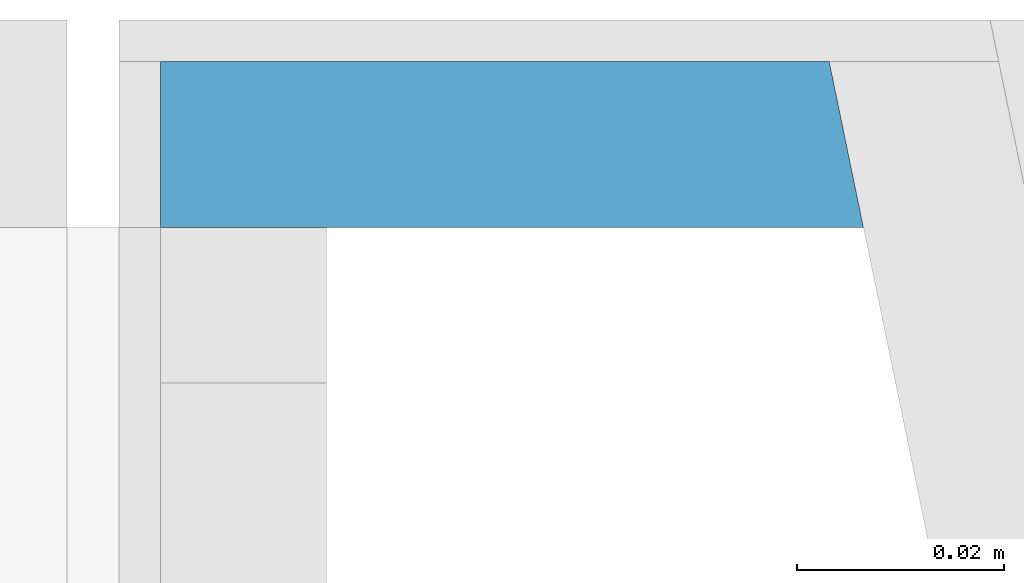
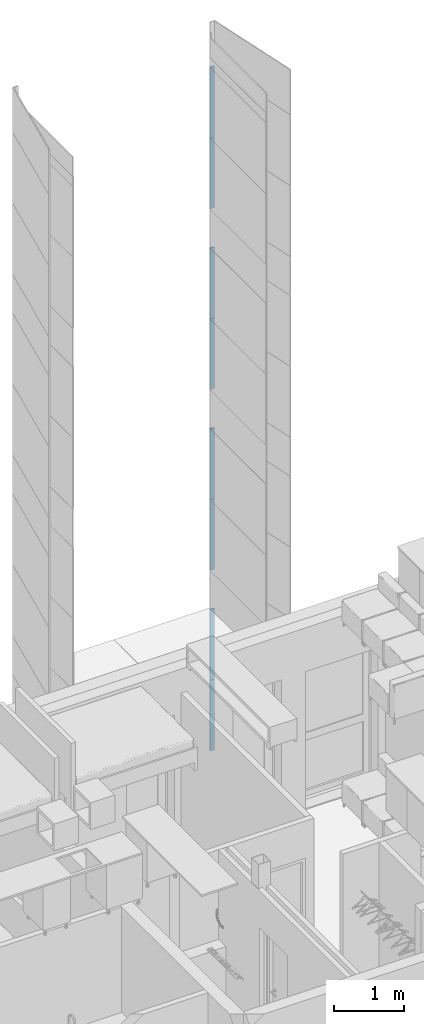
# One storey, part 24 of 125: 8 building element parts, 1 element without a shape of its own.
"""IFC2X3 building model written with IfcOpenShell, lengths in millimetres."""

from ifc_helpers import new_model, entity, si_unit, converted_unit, direction, frame, origin, place, context, subcontext, project, spatial, polyline, outline, extrude, material, type_object, element, aggregate, save


model = new_model("IFC2X3")

# Units and contexts
model_context = context("Model", 3, precision=0.01, world=origin(), true_north=direction((6.123233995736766e-17, 1.0)))
plan_context = context("Plan", 3, precision=0.01, world=origin(), true_north=direction((6.123233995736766e-17, 1.0)))
body_context = subcontext(model_context, "Body", "Model", "MODEL_VIEW")
ifc_project = project(units=[si_unit("LENGTHUNIT", "METRE", prefix="MILLI"), converted_unit("PLANEANGLEUNIT", "DEGREE", entity("IfcPlaneAngleMeasure", 0.017453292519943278), si_unit("PLANEANGLEUNIT", "RADIAN"), dimensions=[0, 0, 0, 0, 0, 0, 0]), si_unit("AREAUNIT", "SQUARE_METRE")], contexts=[model_context, plan_context])

# Site, building, storey
site_placement = place(None, origin())
site = spatial("IfcSite", under=ifc_project, at=site_placement, Name="Default", CompositionType="ELEMENT")
building_placement = place(site_placement, origin())
building = spatial("IfcBuilding", under=site, at=building_placement, CompositionType="ELEMENT")
storey_placement = place(building_placement, frame((0.0, 0.0, 3125.0)))
storey = spatial("IfcBuildingStorey", under=building, at=storey_placement, Name="2K", CompositionType="ELEMENT", Elevation=3125.0)

# Wall, building element parts
wall_type = type_object("IfcWallType", Name="Basic Wall:VS-komposiit", PredefinedType="STANDARD")
wall_placement = place(storey_placement, frame((8286.775755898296, 17442.0, -1010.0), z_axis=(0.0, 0.0, 1.0), x_axis=(-1.0, 0.0, 0.0)))
wall = element("IfcWall", 1, at=wall_placement, inside=storey, type_object=wall_type, Name="Basic Wall:VS-komposiit", ObjectType="Basic Wall:VS-komposiit")
ifc_material = material(Name="_K. Õhk. Roov. Fassaadikatte alusroov. Horisontaalne. 25 mm")
building_element_part_1_placement = place(wall_placement, origin())
building_element_part_1 = element("IfcBuildingElementPart", 2, at=building_element_part_1_placement, material=ifc_material, Name="Part", context=body_context, shape_type="SweptSolid", body=[
    extrude(outline(polyline([(-8.0, -33.06294461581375), (8.0, -33.06294461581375), (8.0, 34.712811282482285), (-8.0, 31.41307794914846), (-8.0, -33.06294461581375)])), frame((34.712811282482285, 2.0, 927.4999999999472), z_axis=(0.0, 0.0, 1.0), x_axis=(0.0, 1.0, 0.0)), (0.0, 0.0, 1.0), 1240.0000000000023),
])
building_element_part_2_placement = place(wall_placement, origin())
building_element_part_2 = element("IfcBuildingElementPart", 3, at=building_element_part_2_placement, material=ifc_material, Name="Part", context=body_context, shape_type="SweptSolid", body=[
    extrude(outline(polyline([(-8.0, -33.06294461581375), (8.0, -33.06294461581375), (8.0, 34.712811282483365), (-8.0, 31.41307794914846), (-8.0, -33.06294461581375)])), frame((34.712811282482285, 2.0, 4097.499999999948), z_axis=(0.0, 0.0, 1.0), x_axis=(0.0, 1.0, 0.0)), (0.0, 0.0, 1.0), 1239.9999999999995),
])
building_element_part_3_placement = place(wall_placement, origin())
building_element_part_3 = element("IfcBuildingElementPart", 4, at=building_element_part_3_placement, material=ifc_material, Name="Part", context=body_context, shape_type="SweptSolid", body=[
    extrude(outline(polyline([(-8.0, -33.06294461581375), (8.0, -33.06294461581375), (8.0, 34.712811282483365), (-8.0, 31.41307794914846), (-8.0, -33.06294461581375)])), frame((34.712811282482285, 2.0, 2172.499999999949), z_axis=(0.0, 0.0, 1.0), x_axis=(0.0, 1.0, 0.0)), (0.0, 0.0, 1.0), 1240.0000000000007),
])
building_element_part_4_placement = place(wall_placement, origin())
building_element_part_4 = element("IfcBuildingElementPart", 5, at=building_element_part_4_placement, material=ifc_material, Name="Part", context=body_context, shape_type="SweptSolid", body=[
    extrude(outline(polyline([(-8.0, -33.06294461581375), (8.0, -33.06294461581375), (8.0, 34.712811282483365), (-8.0, 31.41307794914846), (-8.0, -33.06294461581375)])), frame((34.712811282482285, 2.0, 5342.499999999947), z_axis=(0.0, 0.0, 1.0), x_axis=(0.0, 1.0, 0.0)), (0.0, 0.0, 1.0), 1240.0000000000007),
])
building_element_part_5_placement = place(wall_placement, origin())
building_element_part_5 = element("IfcBuildingElementPart", 6, at=building_element_part_5_placement, material=ifc_material, Name="Part", context=body_context, shape_type="SweptSolid", body=[
    extrude(outline(polyline([(-8.0, -33.06294461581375), (8.0, -33.06294461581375), (8.0, 34.712811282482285), (-8.0, 31.41307794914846), (-8.0, -33.06294461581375)])), frame((34.712811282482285, 2.0, 8512.499999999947), z_axis=(0.0, 0.0, 1.0), x_axis=(0.0, 1.0, 0.0)), (0.0, 0.0, 1.0), 1240.0000000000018),
])
building_element_part_6_placement = place(wall_placement, origin())
building_element_part_6 = element("IfcBuildingElementPart", 7, at=building_element_part_6_placement, material=ifc_material, Name="Part", context=body_context, shape_type="SweptSolid", body=[
    extrude(outline(polyline([(-8.0, -33.06294461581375), (8.0, -33.06294461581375), (8.0, 34.712811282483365), (-8.0, 31.41307794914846), (-8.0, -33.06294461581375)])), frame((34.712811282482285, 2.0, 7267.499999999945), z_axis=(0.0, 0.0, 1.0), x_axis=(0.0, 1.0, 0.0)), (0.0, 0.0, 1.0), 1240.000000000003),
])
building_element_part_7_placement = place(wall_placement, origin())
building_element_part_7 = element("IfcBuildingElementPart", 8, at=building_element_part_7_placement, material=ifc_material, Name="Part", context=body_context, shape_type="SweptSolid", body=[
    extrude(outline(polyline([(-8.0, -33.06294461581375), (8.0, -33.06294461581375), (8.0, 34.712811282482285), (-8.0, 31.41307794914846), (-8.0, -33.06294461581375)])), frame((34.712811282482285, 2.0, 10437.499999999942), z_axis=(0.0, 0.0, 1.0), x_axis=(0.0, 1.0, 0.0)), (0.0, 0.0, 1.0), 1240.000000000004),
])
building_element_part_8_placement = place(wall_placement, origin())
building_element_part_8 = element("IfcBuildingElementPart", 9, at=building_element_part_8_placement, material=ifc_material, Name="Part", context=body_context, shape_type="SweptSolid", body=[
    extrude(outline(polyline([(-8.0, -33.06294461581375), (8.0, -33.06294461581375), (8.0, 34.712811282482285), (-8.0, 31.41307794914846), (-8.0, -33.06294461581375)])), frame((34.712811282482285, 2.0, 11682.499999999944), z_axis=(0.0, 0.0, 1.0), x_axis=(0.0, 1.0, 0.0)), (0.0, 0.0, 1.0), 1240.000000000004),
])
aggregate(wall, [building_element_part_1, building_element_part_2, building_element_part_3, building_element_part_4, building_element_part_5, building_element_part_6, building_element_part_7, building_element_part_8])

save(model, "model.ifc")
